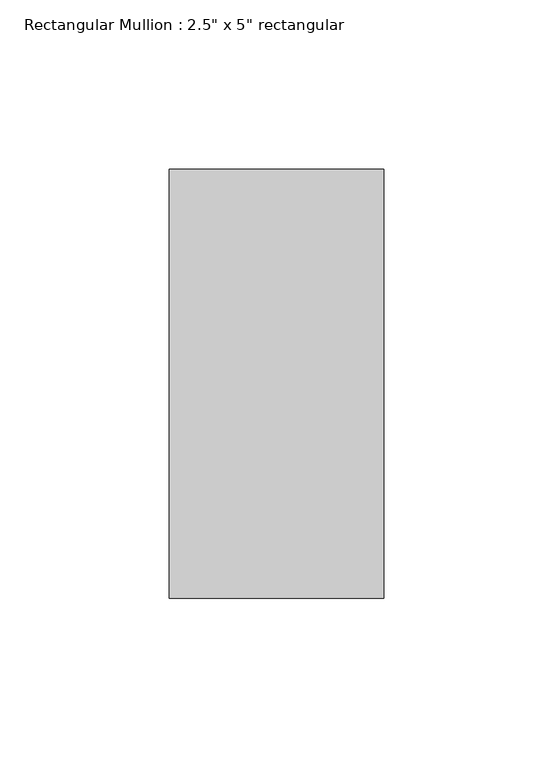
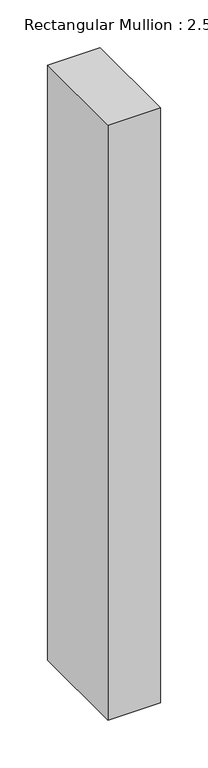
"""IFC4 building model written with IfcOpenShell, lengths in millimetres: member geometry."""

from ifc_helpers import new_model, si_unit, frame, origin, place, context, project, spatial, polyline, outline, extrude, source, transform, mapped, element, save


def member_aa870034(model_context):
    return source(origin(), model_context, "Body", "SweptSolid", [
        extrude(outline(polyline([(0.0, 63.5), (0.0, -63.5), (-63.5, -63.5), (-63.5, 63.5), (0.0, 63.5)])), frame((0.0, 0.0, -762.0), z_axis=(0.0, 0.0, 1.0), x_axis=(1.0, 0.0, 0.0)), (0.0, 0.0, 1.0), 762.0),
    ])


if __name__ == "__main__":
    model = new_model("IFC4")
    model_context = context("Model", 3, world=origin())
    ifc_project = project(units=[si_unit("LENGTHUNIT", "METRE", prefix="MILLI")], contexts=[model_context])
    site = spatial("IfcSite", under=ifc_project)
    building = spatial("IfcBuilding", under=site)
    placement = place(None, origin())
    member_shape = member_aa870034(model_context)
    element("IfcMember", 1, ObjectType="Rectangular Mullion : 2.5\" x 5\" rectangular", at=placement, inside=building, context=model_context, shape_type="MappedRepresentation", body=[
        mapped(member_shape, transform((0.0, 0.0, 0.0), x_axis=(1.0, 0.0, 0.0), y_axis=(0.0, 1.0, 0.0), z_axis=(0.0, 0.0, 1.0))),
    ])
    save(model, "model.ifc")
